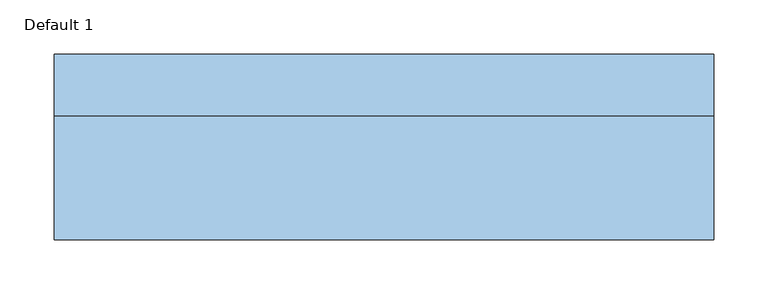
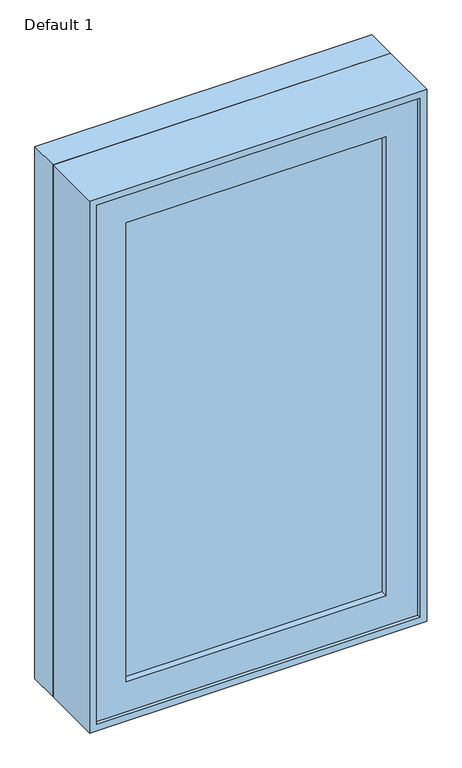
"""IFC4 building model written with IfcOpenShell, lengths in millimetres: window geometry, Planitar-Casement-Single_Left : Default 1."""

from ifc_helpers import new_model, si_unit, frame, origin, place, context, project, spatial, polyline, outline, extrude, faceted_brep, source, transform, mapped, element, save


def default_1_07854831(model_context):
    return source(origin(), model_context, "Body", "SolidModel", [
        extrude(outline(polyline([(234.95, -76.2), (-234.95, -76.2), (-234.95, -69.85), (234.95, -69.85), (234.95, -76.2)])), frame((0.0, 0.0, 984.25), z_axis=(0.0, 0.0, 1.0), x_axis=(1.0, 0.0, 0.0)), (0.0, 0.0, 1.0), 876.3),
        extrude(outline(polyline([(-234.95, -57.15), (234.95, -57.15), (234.95, -63.5), (-234.95, -63.5), (-234.95, -57.15)])), frame((0.0, 0.0, 984.25), z_axis=(0.0, 0.0, 1.0), x_axis=(1.0, 0.0, 0.0)), (0.0, 0.0, 1.0), 876.3),
        extrude(outline(polyline([(1917.7, 292.1), (1917.7, -292.1), (927.1, -292.1), (927.1, 292.1), (1917.7, 292.1)]), holes=[polyline([(1860.55, -234.95), (1860.55, 234.95), (984.25, 234.95), (984.25, -234.95), (1860.55, -234.95)])]), frame((0.0, -88.9, 0.0), z_axis=(0.0, 1.0, 0.0), x_axis=(0.0, 0.0, 1.0)), (0.0, 0.0, 1.0), 44.45),
        extrude(outline(polyline([(1930.4, -304.8), (914.4, -304.8), (914.4, 304.8), (1930.4, 304.8), (1930.4, -304.8)]), holes=[polyline([(1911.35, 285.75), (933.45, 285.75), (933.45, -285.75), (1911.35, -285.75), (1911.35, 285.75)])]), frame((0.0, 19.05, 0.0), z_axis=(0.0, 1.0, 0.0), x_axis=(0.0, 0.0, 1.0)), (0.0, 0.0, 1.0), 57.15),
        faceted_brep([(273.05, -44.45, 1898.65), (-273.05, -44.45, 1898.65), (-273.05, 19.05, 1898.65), (273.05, 19.05, 1898.65), (292.1, -95.25, 1917.7), (-292.1, -95.25, 1917.7), (-292.1, -44.45, 1917.7), (292.1, -44.45, 1917.7), (304.8, 19.05, 1930.4), (-304.8, 19.05, 1930.4), (-304.8, -95.25, 1930.4), (304.8, -95.25, 1930.4), (-273.05, -44.45, 946.15), (-273.05, 19.05, 946.15), (-292.1, -95.25, 927.1), (-292.1, -44.45, 927.1), (-304.8, 19.05, 914.4), (-304.8, -95.25, 914.4), (273.05, -44.45, 946.15), (273.05, 19.05, 946.15), (292.1, -95.25, 927.1), (292.1, -44.45, 927.1), (304.8, 19.05, 914.4), (304.8, -95.25, 914.4)], [[[0, 1, 2, 3]], [[4, 5, 6, 7]], [[8, 9, 10, 11]], [[1, 12, 13, 2]], [[5, 14, 15, 6]], [[9, 16, 17, 10]], [[12, 18, 19, 13]], [[14, 20, 21, 15]], [[16, 22, 23, 17]], [[9, 8, 22, 16], [3, 2, 13, 19]], [[18, 0, 3, 19]], [[7, 6, 15, 21], [1, 0, 18, 12]], [[20, 4, 7, 21]], [[22, 8, 11, 23]], [[11, 10, 17, 23], [5, 4, 20, 14]]]),
    ])


if __name__ == "__main__":
    model = new_model("IFC4")
    model_context = context("Model", 3, world=origin())
    ifc_project = project(units=[si_unit("LENGTHUNIT", "METRE", prefix="MILLI")], contexts=[model_context])
    site = spatial("IfcSite", under=ifc_project)
    building = spatial("IfcBuilding", under=site)
    placement = place(None, origin())
    default_1_shape = default_1_07854831(model_context)
    element("IfcWindow", 1, ObjectType="Planitar-Casement-Single_Left : Default 1", at=placement, inside=building, context=model_context, shape_type="MappedRepresentation", body=[
        mapped(default_1_shape, transform((0.0, 0.0, 0.0), x_axis=(1.0, 0.0, 0.0), y_axis=(0.0, 1.0, 0.0), z_axis=(0.0, 0.0, 1.0))),
    ])
    save(model, "model.ifc")
